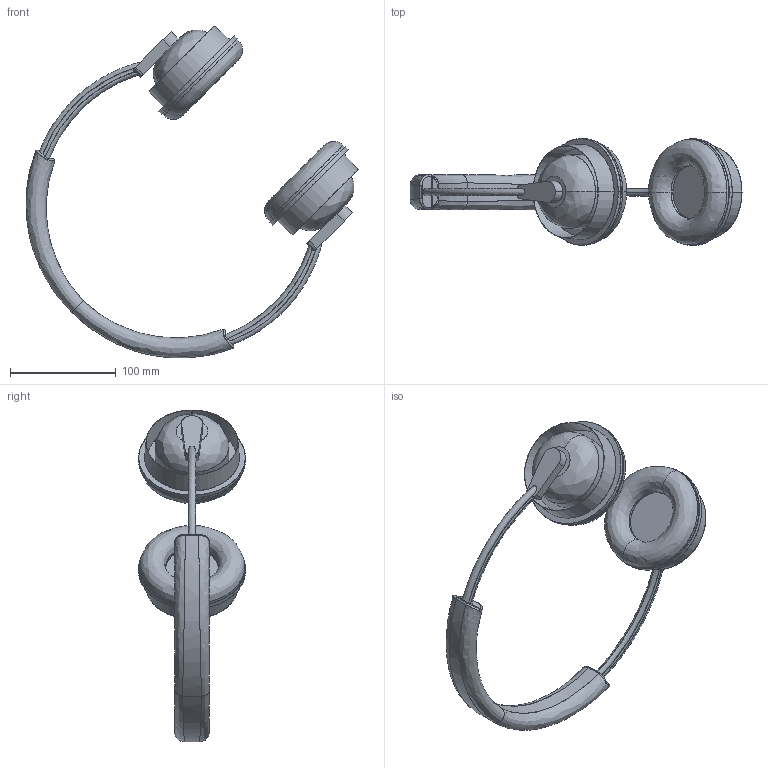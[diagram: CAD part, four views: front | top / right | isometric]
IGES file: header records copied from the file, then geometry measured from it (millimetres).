
Start section: SolidWorks IGES file using analytic representation for surfaces
Global section: file name: C:\Users\SAI NIZAMAPATNAM\Downloads\headphone.IGS; native system: SolidWorks 2016; preprocessor: SolidWorks 2016; author: SAI NIZAMAPATNAM; date: 170525.020208; units: inch
Bounding box: 314.58 x 101 x 314.58 mm (x, y, z)
Surface area: 114938.4 mm2 (no closed solid volume)
Topology: 0 solids, 0 shells, 120 faces, 2555 edges, 2552 vertices
Faces by surface type: bspline 70, revolution 50
